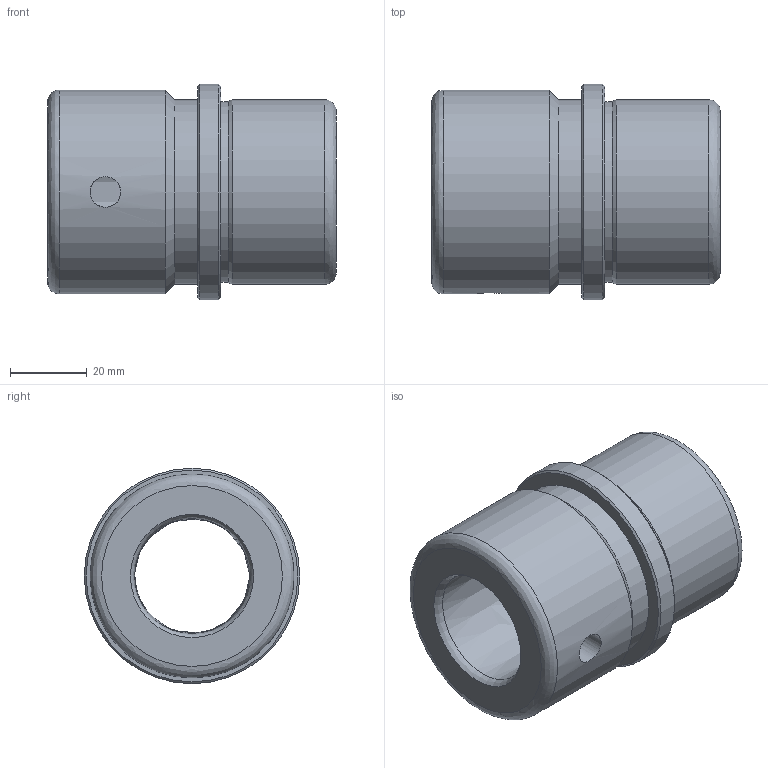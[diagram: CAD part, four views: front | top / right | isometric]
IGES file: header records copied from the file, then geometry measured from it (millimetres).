
Global section: file name: BEBA30-4.ipt; native system: Autodesk Inventor 2021; preprocessor: unknown; author: SM; date: 20220119.054240; units: millimetre
Bounding box: 75 x 56 x 56 mm (x, y, z)
Volume: 97675.2 mm3; surface area: 37704.9 mm2
Topology: 2 solids, 2 shells, 22 faces, 58 edges, 37 vertices
Faces by surface type: revolution 8, cylinder 6, plane 4, cone 4
Full cylindrical faces by diameter (mm): 32 x1, 47 x1, 48 x2, 53 x1, 56 x1
